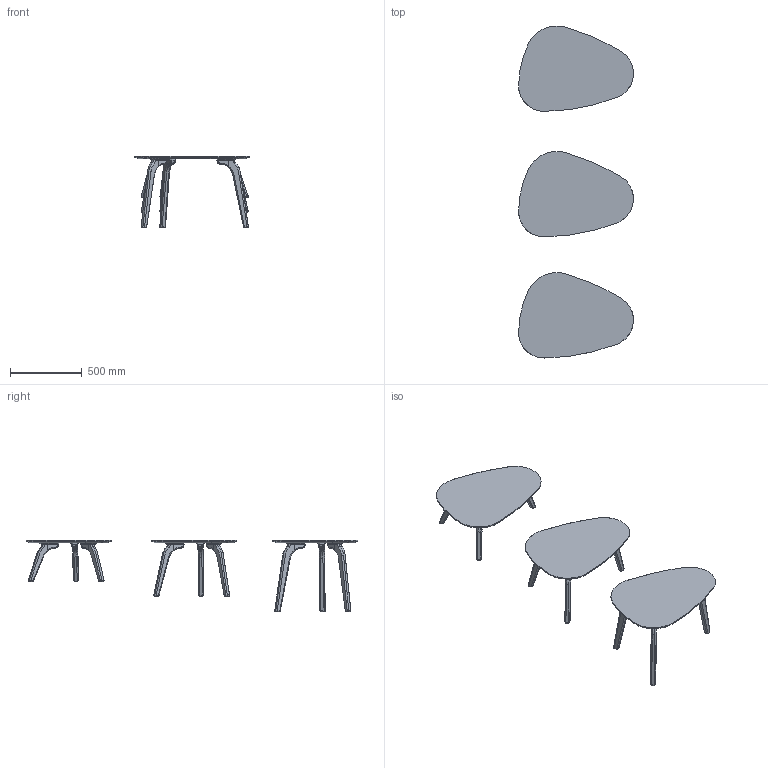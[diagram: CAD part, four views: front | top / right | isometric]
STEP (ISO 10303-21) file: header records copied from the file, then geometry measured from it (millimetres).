
FILE_DESCRIPTION(/* description */ (''),/* implementation_level */ '2;1');
FILE_NAME(/* name */ 'Proces Tear coffee table STEP',/* time_stamp */ '2023-02-24T08:16:43+01:00',/* author */ (''),/* organization */ (''),/* preprocessor_version */ 'ST-DEVELOPER v16.5',/* originating_system */ '',/* authorisation */ '');
FILE_SCHEMA (('AUTOMOTIVE_DESIGN'));
Length unit declared in the file: millimetre
Products named in the file (1): Document
Bounding box: 799.83 x 2313.55 x 500.5 mm (x, y, z)
Volume: 26180067.2 mm3; surface area: 5086129.8 mm2
Topology: 15 solids, 15 shells, 906 faces, 2301 edges, 1473 vertices
Faces by surface type: bspline 597, plane 309
Entity records: 30271 total; most frequent: CARTESIAN_POINT 16616, ORIENTED_EDGE 4602, EDGE_CURVE 2301, VERTEX_POINT 1473, B_SPLINE_CURVE_WITH_KNOTS 1290, EDGE_LOOP 990, ADVANCED_FACE 906, FACE_OUTER_BOUND 906
